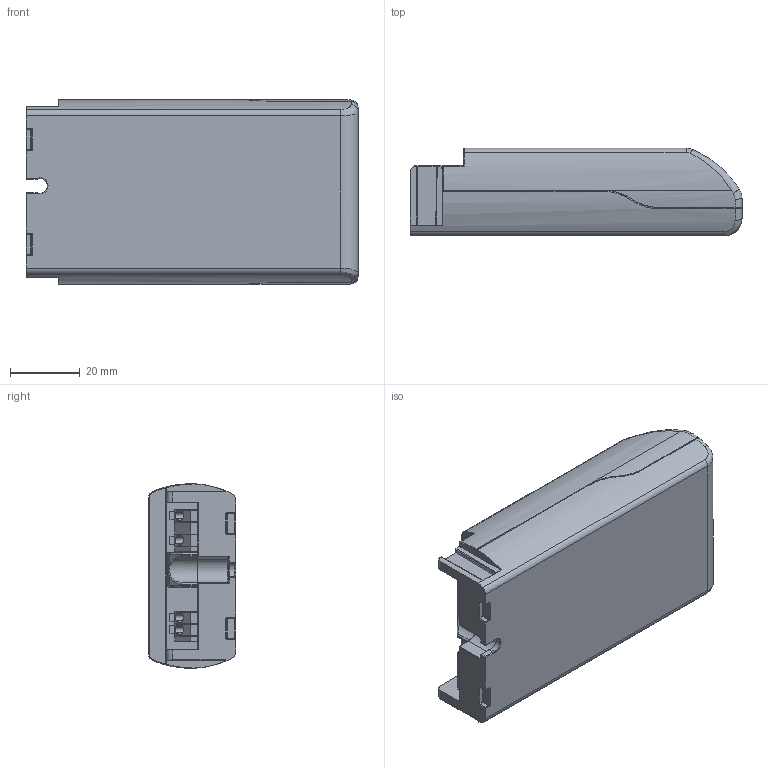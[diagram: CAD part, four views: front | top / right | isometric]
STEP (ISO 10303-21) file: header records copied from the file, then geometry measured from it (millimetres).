
FILE_DESCRIPTION (( 'STEP AP214' ), '1' );
FILE_NAME ('OTe-10-13_CADexport.STEP', '2013-09-06T06:47:02', ( '' ), ( '' ), 'SwSTEP 2.0', 'SolidWorks 2012', '' );
FILE_SCHEMA (( 'AUTOMOTIVE_DESIGN' ));
Length unit declared in the file: millimetre
Products named in the file (1): OTe-10-13_CADexport
Bounding box: 95 x 25 x 52.8 mm (x, y, z)
Volume: 108770.4 mm3; surface area: 18305.2 mm2
Topology: 3 solids, 6 shells, 531 faces, 1343 edges, 818 vertices
Faces by surface type: plane 235, cylinder 207, torus 41, bspline 32, sphere 16
Entity records: 22522 total; most frequent: CARTESIAN_POINT 4539, ORIENTED_EDGE 2658, DIRECTION 2377, EDGE_CURVE 1329, VERTEX_POINT 818, AXIS2_PLACEMENT_3D 794, LINE 789, VECTOR 789
